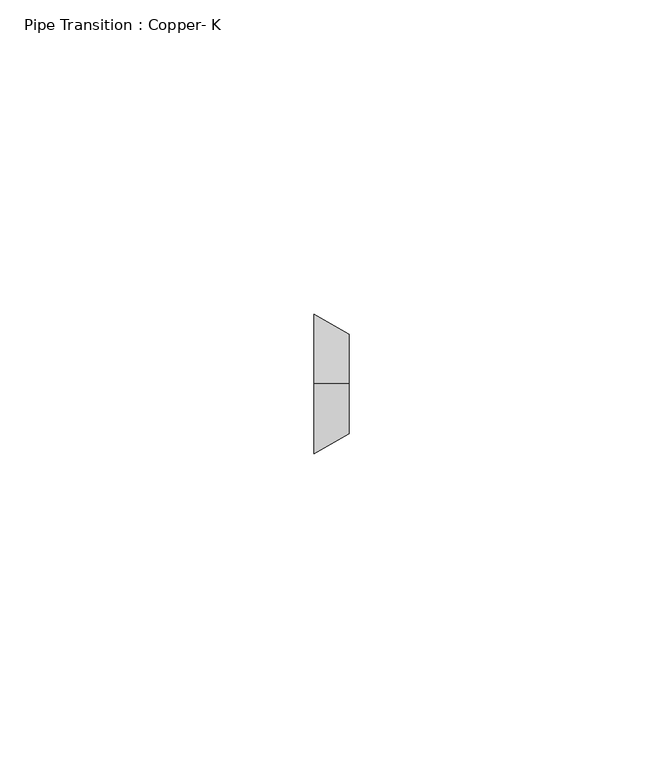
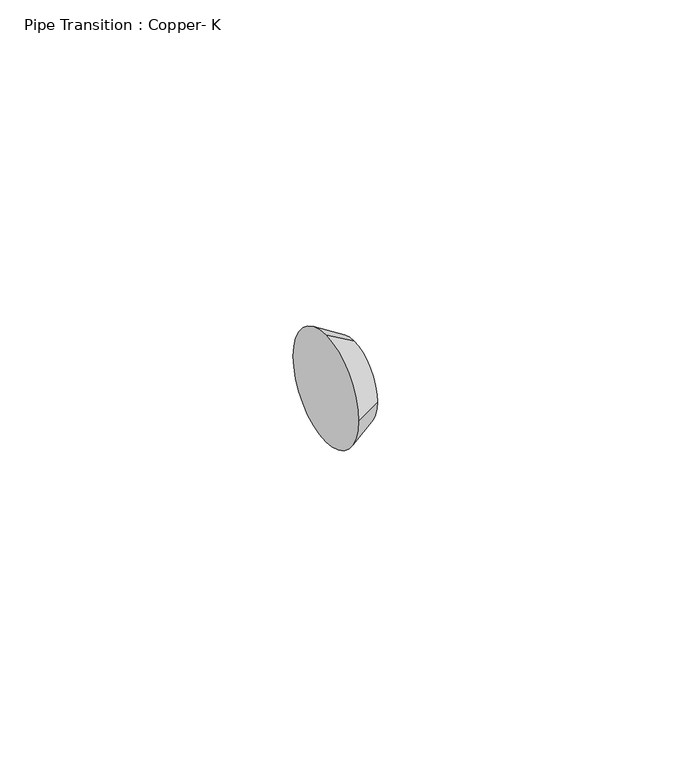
"""IFC4 building model written with IfcOpenShell, lengths in millimetres: pipe fitting geometry, Pipe Transition : Copper- K."""

from ifc_helpers import new_model, si_unit, frame, origin, place, context, project, spatial, circle_curve, source, transform, mapped, element, save
from ifc_brep_helpers import plane_surface, spline_surface, advanced_brep


def pipe_transition_copper_k_f6ef8e9f(model_context):
    return source(origin(), model_context, "Body", "AdvancedBrep", [
        advanced_brep(
        [(5.55625, 0.0, 7.9376042), (5.55625, -7.9375, 0.0001042), (5.55625, 0.0, -7.9373958), (5.55625, 7.9375, 0.0001042), (0.0, 0.0, 11.1125), (0.0, 11.1125, 0.0), (0.0, 0.0, -11.1125), (0.0, -11.1125, 0.0)],
        [
            (0, 1, circle_curve(frame((5.55625, 0.0, 0.0001042), z_axis=(1.0, 0.0, 0.0), x_axis=(0.0, 1.0, 0.0)), 7.9375)),
            (1, 2, circle_curve(frame((5.55625, 0.0, 0.0001042), z_axis=(1.0, 0.0, 0.0), x_axis=(0.0, 1.0, 0.0)), 7.9375)),
            (2, 3, circle_curve(frame((5.55625, 0.0, 0.0001042), z_axis=(1.0, 0.0, 0.0), x_axis=(0.0, 1.0, 0.0)), 7.9375)),
            (3, 0, circle_curve(frame((5.55625, 0.0, 0.0001042), z_axis=(1.0, 0.0, 0.0), x_axis=(0.0, 1.0, 0.0)), 7.9375)),
            (4, 5, circle_curve(frame((0.0, 0.0, 0.0), z_axis=(-1.0, 0.0, 0.0), x_axis=(0.0, 1.0, 0.0)), 11.1125)),
            (5, 6, circle_curve(frame((0.0, 0.0, 0.0), z_axis=(-1.0, 0.0, 0.0), x_axis=(0.0, 1.0, 0.0)), 11.1125)),
            (6, 7, circle_curve(frame((0.0, 0.0, 0.0), z_axis=(-1.0, 0.0, 0.0), x_axis=(0.0, 1.0, 0.0)), 11.1125)),
            (7, 4, circle_curve(frame((0.0, 0.0, 0.0), z_axis=(-1.0, 0.0, 0.0), x_axis=(0.0, 1.0, 0.0)), 11.1125)),
            (7, 1),
            (0, 4),
            (6, 2),
            (5, 3),
        ],
        [
            plane_surface(frame((5.55625, 0.0, 0.0001042), z_axis=(1.0, 0.0, 0.0), x_axis=(0.0, -1.0, 0.0))),
            plane_surface(frame((0.0, 0.0, 0.0), z_axis=(-1.0, 0.0, 0.0), x_axis=(0.0, -1.0, 0.0))),
            spline_surface(2, 1, [[(0.0, 0.0, 11.1125), (5.55625, 0.0, 7.9376042)], [(0.0, -11.1125, 11.1125), (5.55625, -7.9375, 7.9376042)], [(0.0, -11.1125, 0.0), (5.55625, -7.9375, 0.0001042)]], [3, 3], [2, 2], [0.0, 1.0], [0.0, 1.0], weights=[[1.0, 1.0], [0.7071067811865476, 0.7071067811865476], [1.0, 1.0]]),
            spline_surface(2, 1, [[(0.0, -11.1125, 0.0), (5.55625, -7.9375, 0.0001042)], [(0.0, -11.1125, -11.1125), (5.55625, -7.9375, -7.9373958)], [(0.0, 0.0, -11.1125), (5.55625, 0.0, -7.9373958)]], [3, 3], [2, 2], [0.0, 1.0], [0.0, 1.0], weights=[[1.0, 1.0], [0.7071067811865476, 0.7071067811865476], [1.0, 1.0]]),
            spline_surface(2, 1, [[(0.0, 0.0, -11.1125), (5.55625, 0.0, -7.9373958)], [(0.0, 11.1125, -11.1125), (5.55625, 7.9375, -7.9373958)], [(0.0, 11.1125, 0.0), (5.55625, 7.9375, 0.0001042)]], [3, 3], [2, 2], [0.0, 1.0], [0.0, 1.0], weights=[[1.0, 1.0], [0.7071067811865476, 0.7071067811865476], [1.0, 1.0]]),
            spline_surface(2, 1, [[(0.0, 11.1125, 0.0), (5.55625, 7.9375, 0.0001042)], [(0.0, 11.1125, 11.1125), (5.55625, 7.9375, 7.9376042)], [(0.0, 0.0, 11.1125), (5.55625, 0.0, 7.9376042)]], [3, 3], [2, 2], [0.0, 1.0], [0.0, 1.0], weights=[[1.0, 1.0], [0.7071067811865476, 0.7071067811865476], [1.0, 1.0]]),
        ],
        [
            (0, [[1, 2, 3, 4]]),
            (1, [[5, 6, 7, 8]]),
            (2, [[-8, 9, -1, 10]]),
            (3, [[-7, 11, -2, -9]]),
            (4, [[-6, 12, -3, -11]]),
            (5, [[-5, -10, -4, -12]]),
        ],
    ),
        advanced_brep(
        [(5.55625, 0.0, 7.9376042), (5.55625, -7.9375, 0.0001042), (5.55625, 0.0, -7.9373958), (5.55625, 7.9375, 0.0001042), (0.0, 0.0, 11.1125), (0.0, 11.1125, 0.0), (0.0, 0.0, -11.1125), (0.0, -11.1125, 0.0)],
        [
            (0, 1, circle_curve(frame((5.55625, 0.0, 0.0001042), z_axis=(1.0, 0.0, 0.0), x_axis=(0.0, 1.0, 0.0)), 7.9375)),
            (1, 2, circle_curve(frame((5.55625, 0.0, 0.0001042), z_axis=(1.0, 0.0, 0.0), x_axis=(0.0, 1.0, 0.0)), 7.9375)),
            (2, 3, circle_curve(frame((5.55625, 0.0, 0.0001042), z_axis=(1.0, 0.0, 0.0), x_axis=(0.0, 1.0, 0.0)), 7.9375)),
            (3, 0, circle_curve(frame((5.55625, 0.0, 0.0001042), z_axis=(1.0, 0.0, 0.0), x_axis=(0.0, 1.0, 0.0)), 7.9375)),
            (4, 5, circle_curve(frame((0.0, 0.0, 0.0), z_axis=(-1.0, 0.0, 0.0), x_axis=(0.0, 1.0, 0.0)), 11.1125)),
            (5, 6, circle_curve(frame((0.0, 0.0, 0.0), z_axis=(-1.0, 0.0, 0.0), x_axis=(0.0, 1.0, 0.0)), 11.1125)),
            (6, 7, circle_curve(frame((0.0, 0.0, 0.0), z_axis=(-1.0, 0.0, 0.0), x_axis=(0.0, 1.0, 0.0)), 11.1125)),
            (7, 4, circle_curve(frame((0.0, 0.0, 0.0), z_axis=(-1.0, 0.0, 0.0), x_axis=(0.0, 1.0, 0.0)), 11.1125)),
            (7, 1),
            (0, 4),
            (6, 2),
            (5, 3),
        ],
        [
            plane_surface(frame((5.55625, 0.0, 0.0001042), z_axis=(1.0, 0.0, 0.0), x_axis=(0.0, -1.0, 0.0))),
            plane_surface(frame((0.0, 0.0, 0.0), z_axis=(-1.0, 0.0, 0.0), x_axis=(0.0, -1.0, 0.0))),
            spline_surface(2, 1, [[(0.0, 0.0, 11.1125), (5.55625, 0.0, 7.9376042)], [(0.0, -11.1125, 11.1125), (5.55625, -7.9375, 7.9376042)], [(0.0, -11.1125, 0.0), (5.55625, -7.9375, 0.0001042)]], [3, 3], [2, 2], [0.0, 1.0], [0.0, 1.0], weights=[[1.0, 1.0], [0.7071067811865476, 0.7071067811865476], [1.0, 1.0]]),
            spline_surface(2, 1, [[(0.0, -11.1125, 0.0), (5.55625, -7.9375, 0.0001042)], [(0.0, -11.1125, -11.1125), (5.55625, -7.9375, -7.9373958)], [(0.0, 0.0, -11.1125), (5.55625, 0.0, -7.9373958)]], [3, 3], [2, 2], [0.0, 1.0], [0.0, 1.0], weights=[[1.0, 1.0], [0.7071067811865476, 0.7071067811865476], [1.0, 1.0]]),
            spline_surface(2, 1, [[(0.0, 0.0, -11.1125), (5.55625, 0.0, -7.9373958)], [(0.0, 11.1125, -11.1125), (5.55625, 7.9375, -7.9373958)], [(0.0, 11.1125, 0.0), (5.55625, 7.9375, 0.0001042)]], [3, 3], [2, 2], [0.0, 1.0], [0.0, 1.0], weights=[[1.0, 1.0], [0.7071067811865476, 0.7071067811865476], [1.0, 1.0]]),
            spline_surface(2, 1, [[(0.0, 11.1125, 0.0), (5.55625, 7.9375, 0.0001042)], [(0.0, 11.1125, 11.1125), (5.55625, 7.9375, 7.9376042)], [(0.0, 0.0, 11.1125), (5.55625, 0.0, 7.9376042)]], [3, 3], [2, 2], [0.0, 1.0], [0.0, 1.0], weights=[[1.0, 1.0], [0.7071067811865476, 0.7071067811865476], [1.0, 1.0]]),
        ],
        [
            (0, [[1, 2, 3, 4]]),
            (1, [[5, 6, 7, 8]]),
            (2, [[-8, 9, -1, 10]]),
            (3, [[-7, 11, -2, -9]]),
            (4, [[-6, 12, -3, -11]]),
            (5, [[-5, -10, -4, -12]]),
        ],
    ),
    ])


if __name__ == "__main__":
    model = new_model("IFC4")
    model_context = context("Model", 3, world=origin())
    ifc_project = project(units=[si_unit("LENGTHUNIT", "METRE", prefix="MILLI")], contexts=[model_context])
    site = spatial("IfcSite", under=ifc_project)
    building = spatial("IfcBuilding", under=site)
    placement = place(None, origin())
    pipe_transition_copper_k_shape = pipe_transition_copper_k_f6ef8e9f(model_context)
    element("IfcPipeFitting", 1, ObjectType="Pipe Transition : Copper- K", at=placement, inside=building, context=model_context, shape_type="MappedRepresentation", body=[
        mapped(pipe_transition_copper_k_shape, transform((0.0, 0.0, 0.0), x_axis=(1.0, 0.0, 0.0), y_axis=(0.0, 1.0, 0.0), z_axis=(0.0, 0.0, 1.0))),
    ])
    save(model, "model.ifc")
